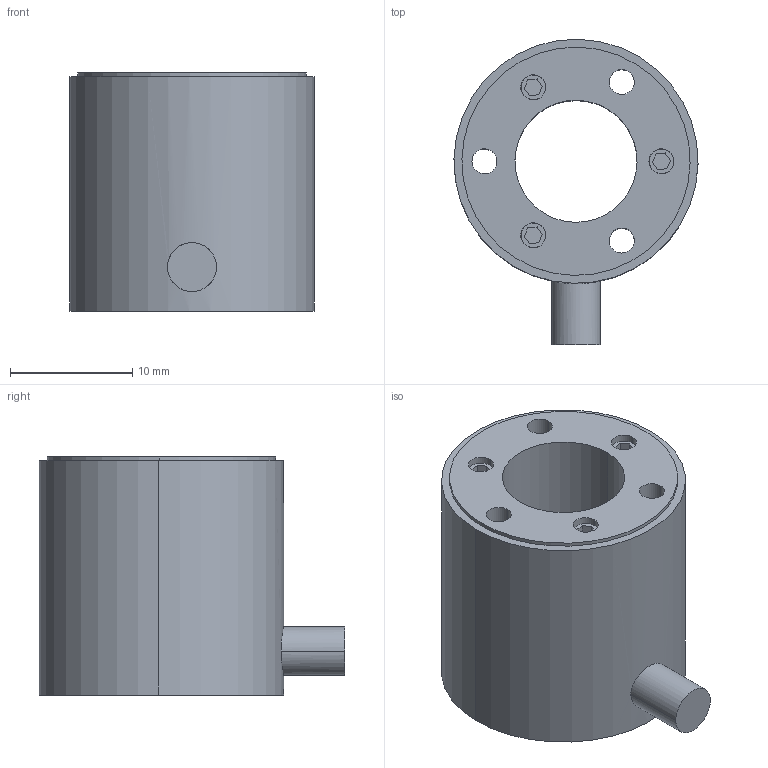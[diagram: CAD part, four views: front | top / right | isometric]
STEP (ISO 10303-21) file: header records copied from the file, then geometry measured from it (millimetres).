
FILE_DESCRIPTION (( 'STEP AP203' ), '1' );
FILE_NAME ('S23.ZT1K-B1三维外形尺寸图.STEP', '2021-07-02T06:23:46', ( 'User' ), ( 'china' ), 'SwSTEP 2.0', 'SolidWorks 2016', '' );
FILE_SCHEMA (( 'CONFIG_CONTROL_DESIGN' ));
Length unit declared in the file: millimetre
Products named in the file (1): S23.ZT1K-B1三维外形尺寸图
Bounding box: 20 x 25 x 19.5 mm (x, y, z)
Surface area: 2604.6 mm2 (no closed solid volume)
Topology: 0 solids, 4 shells, 53 faces, 142 edges, 96 vertices
Faces by surface type: cylinder 26, plane 25, cone 2
Entity records: 1796 total; most frequent: CARTESIAN_POINT 346, DIRECTION 306, ORIENTED_EDGE 242, EDGE_CURVE 142, AXIS2_PLACEMENT_3D 112, VERTEX_POINT 96, VECTOR 82, LINE 82
